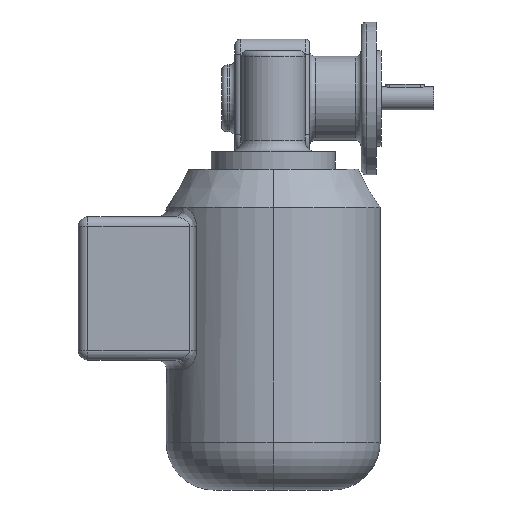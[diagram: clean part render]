
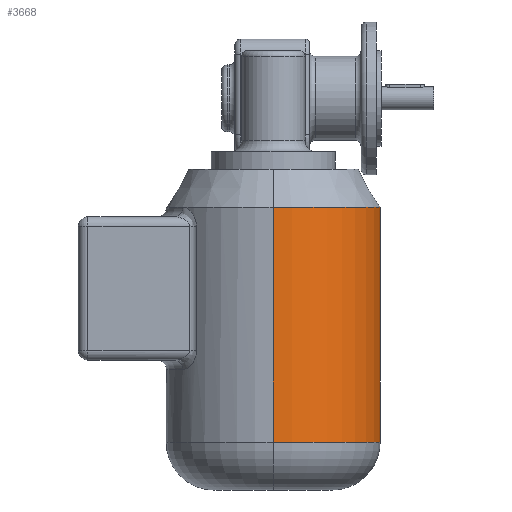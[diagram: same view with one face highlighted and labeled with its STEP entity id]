
A CAD part, front view. The second image highlights one B-rep face of the part: STEP entity #3668.
In plain terms, the highlighted cylindrical face has radius 56 mm (diameter 112 mm), a partial arc.
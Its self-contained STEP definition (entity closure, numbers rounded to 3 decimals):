
#1547 = CARTESIAN_POINT ( 'NONE',  ( 0., -54.893, -143. ) ) ;
#1553 = CARTESIAN_POINT ( 'NONE',  ( 0., 57.107, -143. ) ) ;
#1668 = DIRECTION ( 'NONE',  ( 0., -1., 0. ) ) ;
#1669 = DIRECTION ( 'NONE',  ( 0., 0., 1. ) ) ;
#1670 = AXIS2_PLACEMENT_3D ( 'NONE', #1677, #1669, #1668 ) ;
#1671 = CIRCLE ( 'NONE', #1670, 56. ) ;
#1672 = DIRECTION ( 'NONE',  ( 0., -1., 0. ) ) ;
#1673 = DIRECTION ( 'NONE',  ( 0., 0., 1. ) ) ;
#1674 = CARTESIAN_POINT ( 'NONE',  ( 0., 1.107, -168. ) ) ;
#1675 = AXIS2_PLACEMENT_3D ( 'NONE', #1674, #1673, #1672 ) ;
#1676 = CYLINDRICAL_SURFACE ( 'NONE', #1675, 56. ) ;
#1677 = CARTESIAN_POINT ( 'NONE',  ( 0., 1.107, -143. ) ) ;
#1678 = FACE_OUTER_BOUND ( 'NONE', #3669, .T. ) ;
#1679 = DIRECTION ( 'NONE',  ( 0., 0., 1. ) ) ;
#1680 = VECTOR ( 'NONE', #1679, 1000. ) ;
#1681 = CARTESIAN_POINT ( 'NONE',  ( 0., -54.893, -168. ) ) ;
#1682 = LINE ( 'NONE', #1681, #1680 ) ;
#1688 = CARTESIAN_POINT ( 'NONE',  ( 0., 57.107, -20. ) ) ;
#1712 = CARTESIAN_POINT ( 'NONE',  ( 0., -54.893, -20. ) ) ;
#1730 = DIRECTION ( 'NONE',  ( 0., -1., 0. ) ) ;
#1731 = DIRECTION ( 'NONE',  ( 0., 0., -1. ) ) ;
#1732 = CARTESIAN_POINT ( 'NONE',  ( 0., 1.107, -20. ) ) ;
#1733 = AXIS2_PLACEMENT_3D ( 'NONE', #1732, #1731, #1730 ) ;
#1734 = CIRCLE ( 'NONE', #1733, 56. ) ;
#1797 = DIRECTION ( 'NONE',  ( 0., 0., 1. ) ) ;
#1798 = VECTOR ( 'NONE', #1797, 1000. ) ;
#1799 = CARTESIAN_POINT ( 'NONE',  ( 0., 57.107, -168. ) ) ;
#1804 = LINE ( 'NONE', #1799, #1798 ) ;
#3645 = VERTEX_POINT ( 'NONE', #1553 ) ;
#3648 = VERTEX_POINT ( 'NONE', #1547 ) ;
#3667 = EDGE_CURVE ( 'NONE', #3648, #3682, #1682, .T. ) ;
#3668 = ADVANCED_FACE ( 'NONE', ( #1678 ), #1676, .T. ) ;
#3669 = EDGE_LOOP ( 'NONE', ( #3670, #3671, #3702, #3703 ) ) ;
#3670 = ORIENTED_EDGE ( 'NONE', *, *, #3734, .F. ) ;
#3671 = ORIENTED_EDGE ( 'NONE', *, *, #3672, .T. ) ;
#3672 = EDGE_CURVE ( 'NONE', #3645, #3648, #1671, .T. ) ;
#3682 = VERTEX_POINT ( 'NONE', #1712 ) ;
#3695 = VERTEX_POINT ( 'NONE', #1688 ) ;
#3702 = ORIENTED_EDGE ( 'NONE', *, *, #3667, .T. ) ;
#3703 = ORIENTED_EDGE ( 'NONE', *, *, #3704, .T. ) ;
#3704 = EDGE_CURVE ( 'NONE', #3682, #3695, #1734, .T. ) ;
#3734 = EDGE_CURVE ( 'NONE', #3645, #3695, #1804, .T. ) ;
